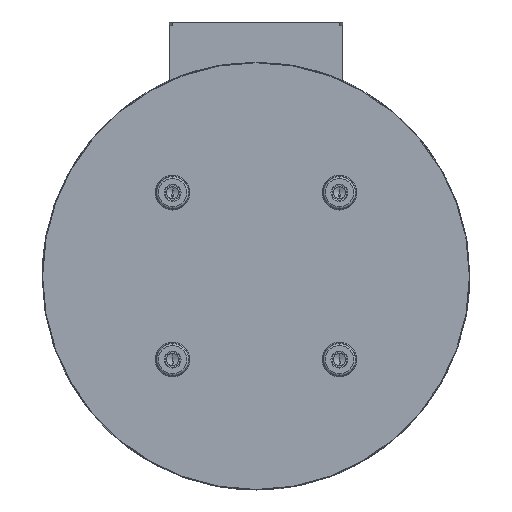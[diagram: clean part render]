
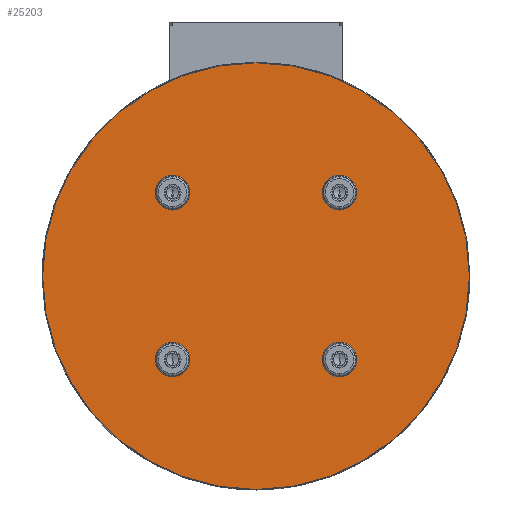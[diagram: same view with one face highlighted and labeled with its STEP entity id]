
A CAD part, front view. The second image highlights one B-rep face of the part: STEP entity #25203.
In plain terms, the highlighted planar face has unit normal (0, -1, 0).
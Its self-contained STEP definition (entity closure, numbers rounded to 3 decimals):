
#274 = EDGE_LOOP ( 'NONE', ( #3523, #23875 ) ) ;
#612 = CARTESIAN_POINT ( 'NONE',  ( 48., 0., -56.703 ) ) ;
#724 = AXIS2_PLACEMENT_3D ( 'NONE', #10145, #15882, #23661 ) ;
#1276 = EDGE_CURVE ( 'NONE', #16908, #15389, #7453, .T. ) ;
#1277 = CIRCLE ( 'NONE', #14132, 8.703 ) ;
#1648 = DIRECTION ( 'NONE',  ( 0., 0., 1. ) ) ;
#1979 = DIRECTION ( 'NONE',  ( 0., 0., 1. ) ) ;
#2090 = CARTESIAN_POINT ( 'NONE',  ( -48., 0., 48. ) ) ;
#2824 = CARTESIAN_POINT ( 'NONE',  ( 0., 0., 0. ) ) ;
#2921 = EDGE_LOOP ( 'NONE', ( #11475, #31707 ) ) ;
#2940 = AXIS2_PLACEMENT_3D ( 'NONE', #19006, #8648, #13324 ) ;
#3068 = CARTESIAN_POINT ( 'NONE',  ( 48., 0., -48. ) ) ;
#3523 = ORIENTED_EDGE ( 'NONE', *, *, #28237, .T. ) ;
#3650 = EDGE_CURVE ( 'NONE', #23958, #27017, #29227, .T. ) ;
#5004 = DIRECTION ( 'NONE',  ( 0., 0., 1. ) ) ;
#5162 = DIRECTION ( 'NONE',  ( 0., 1., 0. ) ) ;
#5414 = EDGE_LOOP ( 'NONE', ( #12020, #32061 ) ) ;
#5833 = DIRECTION ( 'NONE',  ( 0., 0., 1. ) ) ;
#6479 = EDGE_CURVE ( 'NONE', #27017, #23958, #18427, .T. ) ;
#6530 = DIRECTION ( 'NONE',  ( 0., 1., 0. ) ) ;
#6989 = CARTESIAN_POINT ( 'NONE',  ( 48., 0., 56.703 ) ) ;
#7196 = DIRECTION ( 'NONE',  ( 0., 0., 1. ) ) ;
#7266 = CARTESIAN_POINT ( 'NONE',  ( 48., 0., -48. ) ) ;
#7453 = CIRCLE ( 'NONE', #724, 8.703 ) ;
#7555 = FACE_BOUND ( 'NONE', #5414, .T. ) ;
#7579 = EDGE_LOOP ( 'NONE', ( #11590, #22698 ) ) ;
#8131 = VERTEX_POINT ( 'NONE', #30219 ) ;
#8648 = DIRECTION ( 'NONE',  ( 0., -1., 0. ) ) ;
#8677 = EDGE_CURVE ( 'NONE', #21632, #8131, #29884, .T. ) ;
#8926 = CIRCLE ( 'NONE', #13341, 8.703 ) ;
#9384 = EDGE_LOOP ( 'NONE', ( #11701, #15661 ) ) ;
#9627 = AXIS2_PLACEMENT_3D ( 'NONE', #2824, #18992, #5833 ) ;
#10145 = CARTESIAN_POINT ( 'NONE',  ( 48., 0., 48. ) ) ;
#10518 = AXIS2_PLACEMENT_3D ( 'NONE', #15107, #28754, #5004 ) ;
#11103 = DIRECTION ( 'NONE',  ( 0., 1., 0. ) ) ;
#11280 = AXIS2_PLACEMENT_3D ( 'NONE', #3068, #6530, #14378 ) ;
#11475 = ORIENTED_EDGE ( 'NONE', *, *, #1276, .T. ) ;
#11590 = ORIENTED_EDGE ( 'NONE', *, *, #8677, .T. ) ;
#11701 = ORIENTED_EDGE ( 'NONE', *, *, #32117, .T. ) ;
#12020 = ORIENTED_EDGE ( 'NONE', *, *, #3650, .T. ) ;
#12702 = EDGE_CURVE ( 'NONE', #8131, #21632, #13546, .T. ) ;
#12782 = VERTEX_POINT ( 'NONE', #23882 ) ;
#12968 = FACE_BOUND ( 'NONE', #9384, .T. ) ;
#13015 = DIRECTION ( 'NONE',  ( 0., 0., 1. ) ) ;
#13019 = DIRECTION ( 'NONE',  ( 0., 0., 1. ) ) ;
#13324 = DIRECTION ( 'NONE',  ( 0., 0., 1. ) ) ;
#13341 = AXIS2_PLACEMENT_3D ( 'NONE', #28250, #18166, #1648 ) ;
#13546 = CIRCLE ( 'NONE', #2940, 122.7 ) ;
#14012 = CARTESIAN_POINT ( 'NONE',  ( 48., 0., 39.297 ) ) ;
#14132 = AXIS2_PLACEMENT_3D ( 'NONE', #18526, #5162, #13019 ) ;
#14378 = DIRECTION ( 'NONE',  ( 0., 0., 1. ) ) ;
#14792 = AXIS2_PLACEMENT_3D ( 'NONE', #15478, #33714, #26038 ) ;
#15107 = CARTESIAN_POINT ( 'NONE',  ( 0., 0., 0. ) ) ;
#15389 = VERTEX_POINT ( 'NONE', #6989 ) ;
#15478 = CARTESIAN_POINT ( 'NONE',  ( -48., 0., -48. ) ) ;
#15661 = ORIENTED_EDGE ( 'NONE', *, *, #18056, .T. ) ;
#15728 = FACE_BOUND ( 'NONE', #2921, .T. ) ;
#15882 = DIRECTION ( 'NONE',  ( 0., 1., 0. ) ) ;
#16908 = VERTEX_POINT ( 'NONE', #14012 ) ;
#17643 = CARTESIAN_POINT ( 'NONE',  ( -48., 0., -39.297 ) ) ;
#17658 = CARTESIAN_POINT ( 'NONE',  ( -48., 0., -56.703 ) ) ;
#18056 = EDGE_CURVE ( 'NONE', #24126, #29384, #28023, .T. ) ;
#18127 = FACE_BOUND ( 'NONE', #274, .T. ) ;
#18166 = DIRECTION ( 'NONE',  ( 0., 1., 0. ) ) ;
#18339 = CARTESIAN_POINT ( 'NONE',  ( -48., 0., -48. ) ) ;
#18427 = CIRCLE ( 'NONE', #11280, 8.703 ) ;
#18526 = CARTESIAN_POINT ( 'NONE',  ( -48., 0., 48. ) ) ;
#18802 = CIRCLE ( 'NONE', #24884, 8.703 ) ;
#18992 = DIRECTION ( 'NONE',  ( 0., 1., 0. ) ) ;
#19006 = CARTESIAN_POINT ( 'NONE',  ( 0., 0., 0. ) ) ;
#19465 = CARTESIAN_POINT ( 'NONE',  ( -48., 0., 39.297 ) ) ;
#20933 = AXIS2_PLACEMENT_3D ( 'NONE', #7266, #28409, #1979 ) ;
#21632 = VERTEX_POINT ( 'NONE', #33418 ) ;
#22698 = ORIENTED_EDGE ( 'NONE', *, *, #12702, .T. ) ;
#23661 = DIRECTION ( 'NONE',  ( 0., 0., 1. ) ) ;
#23875 = ORIENTED_EDGE ( 'NONE', *, *, #34316, .T. ) ;
#23882 = CARTESIAN_POINT ( 'NONE',  ( -48., 0., 56.703 ) ) ;
#23958 = VERTEX_POINT ( 'NONE', #612 ) ;
#24126 = VERTEX_POINT ( 'NONE', #17643 ) ;
#24709 = PLANE ( 'NONE',  #9627 ) ;
#24884 = AXIS2_PLACEMENT_3D ( 'NONE', #18339, #11103, #13015 ) ;
#25114 = CIRCLE ( 'NONE', #34028, 8.703 ) ;
#25203 = ADVANCED_FACE ( 'NONE', ( #31160, #12968, #7555, #15728, #18127 ), #24709, .F. ) ;
#25567 = DIRECTION ( 'NONE',  ( 0., 1., 0. ) ) ;
#26038 = DIRECTION ( 'NONE',  ( 0., 0., 1. ) ) ;
#27017 = VERTEX_POINT ( 'NONE', #32756 ) ;
#28023 = CIRCLE ( 'NONE', #14792, 8.703 ) ;
#28237 = EDGE_CURVE ( 'NONE', #31691, #12782, #25114, .T. ) ;
#28250 = CARTESIAN_POINT ( 'NONE',  ( 48., 0., 48. ) ) ;
#28409 = DIRECTION ( 'NONE',  ( 0., 1., 0. ) ) ;
#28754 = DIRECTION ( 'NONE',  ( 0., -1., 0. ) ) ;
#29227 = CIRCLE ( 'NONE', #20933, 8.703 ) ;
#29384 = VERTEX_POINT ( 'NONE', #17658 ) ;
#29884 = CIRCLE ( 'NONE', #10518, 122.7 ) ;
#30219 = CARTESIAN_POINT ( 'NONE',  ( 0., 0., -122.7 ) ) ;
#31160 = FACE_OUTER_BOUND ( 'NONE', #7579, .T. ) ;
#31691 = VERTEX_POINT ( 'NONE', #19465 ) ;
#31707 = ORIENTED_EDGE ( 'NONE', *, *, #32030, .T. ) ;
#32030 = EDGE_CURVE ( 'NONE', #15389, #16908, #8926, .T. ) ;
#32061 = ORIENTED_EDGE ( 'NONE', *, *, #6479, .T. ) ;
#32117 = EDGE_CURVE ( 'NONE', #29384, #24126, #18802, .T. ) ;
#32756 = CARTESIAN_POINT ( 'NONE',  ( 48., 0., -39.297 ) ) ;
#33418 = CARTESIAN_POINT ( 'NONE',  ( 0., 0., 122.7 ) ) ;
#33714 = DIRECTION ( 'NONE',  ( 0., 1., 0. ) ) ;
#34028 = AXIS2_PLACEMENT_3D ( 'NONE', #2090, #25567, #7196 ) ;
#34316 = EDGE_CURVE ( 'NONE', #12782, #31691, #1277, .T. ) ;
